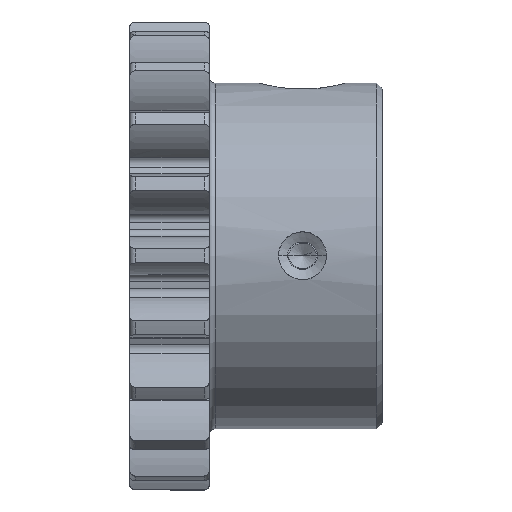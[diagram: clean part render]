
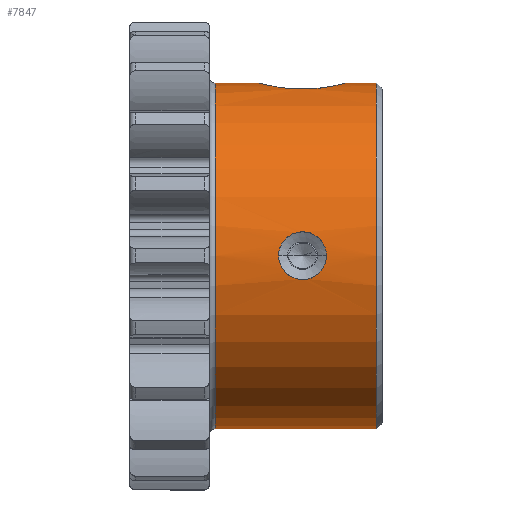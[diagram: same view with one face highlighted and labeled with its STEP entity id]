
A CAD part, top view. The second image highlights one B-rep face of the part: STEP entity #7847.
In plain terms, the highlighted cylindrical face has radius 6.5 mm (diameter 13 mm), a partial arc.
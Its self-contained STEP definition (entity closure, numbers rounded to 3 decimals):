
#3488=CARTESIAN_POINT('',(1.725,0.,0.));
#3489=DIRECTION('',(1.,0.,0.));
#3490=DIRECTION('',(0.,1.,0.));
#3491=AXIS2_PLACEMENT_3D('',#3488,#3489,#3490);
#3493=CARTESIAN_POINT('',(7.775,0.,0.));
#3494=DIRECTION('',(1.,0.,0.));
#3495=DIRECTION('',(0.,1.,0.));
#3496=AXIS2_PLACEMENT_3D('',#3493,#3494,#3495);
#3498=CARTESIAN_POINT('',(5.9,0.,6.5));
#3499=CARTESIAN_POINT('',(5.9,-0.063,6.5));
#3500=CARTESIAN_POINT('',(5.887,-0.188,
6.498));
#3501=CARTESIAN_POINT('',(5.829,-0.368,
6.49));
#3502=CARTESIAN_POINT('',(5.734,-0.533,
6.479));
#3503=CARTESIAN_POINT('',(5.608,-0.673,
6.465));
#3504=CARTESIAN_POINT('',(5.454,-0.785,
6.453));
#3505=CARTESIAN_POINT('',(5.281,-0.862,
6.443));
#3506=CARTESIAN_POINT('',(5.094,-0.902,
6.437));
#3507=CARTESIAN_POINT('',(4.906,-0.902,
6.437));
#3508=CARTESIAN_POINT('',(4.719,-0.862,
6.443));
#3509=CARTESIAN_POINT('',(4.547,-0.785,
6.453));
#3510=CARTESIAN_POINT('',(4.393,-0.673,
6.465));
#3511=CARTESIAN_POINT('',(4.267,-0.533,
6.479));
#3512=CARTESIAN_POINT('',(4.172,-0.368,
6.49));
#3513=CARTESIAN_POINT('',(4.113,-0.188,
6.498));
#3514=CARTESIAN_POINT('',(4.1,-0.064,6.5));
#3515=CARTESIAN_POINT('',(4.1,0.,6.5));
#3517=CARTESIAN_POINT('',(4.1,0.,6.5));
#3518=CARTESIAN_POINT('',(4.1,0.063,6.5));
#3519=CARTESIAN_POINT('',(4.113,0.188,6.498));
#3520=CARTESIAN_POINT('',(4.171,0.368,6.49));
#3521=CARTESIAN_POINT('',(4.266,0.533,6.479));
#3522=CARTESIAN_POINT('',(4.392,0.673,6.465));
#3523=CARTESIAN_POINT('',(4.546,0.785,6.453));
#3524=CARTESIAN_POINT('',(4.719,0.862,6.443));
#3525=CARTESIAN_POINT('',(4.906,0.902,6.437));
#3526=CARTESIAN_POINT('',(5.094,0.902,6.437));
#3527=CARTESIAN_POINT('',(5.281,0.862,6.443));
#3528=CARTESIAN_POINT('',(5.453,0.785,6.453));
#3529=CARTESIAN_POINT('',(5.607,0.673,6.465));
#3530=CARTESIAN_POINT('',(5.733,0.533,6.479));
#3531=CARTESIAN_POINT('',(5.828,0.368,6.49));
#3532=CARTESIAN_POINT('',(5.887,0.188,6.498));
#3533=CARTESIAN_POINT('',(5.9,0.064,6.5));
#3534=CARTESIAN_POINT('',(5.9,0.,6.5));
#3536=CARTESIAN_POINT('',(6.65,6.5,
0.));
#3537=CARTESIAN_POINT('',(6.65,6.5,0.112));
#3538=CARTESIAN_POINT('',(6.629,6.494,0.333));
#3539=CARTESIAN_POINT('',(6.532,6.469,0.656));
#3540=CARTESIAN_POINT('',(6.375,6.432,0.953));
#3541=CARTESIAN_POINT('',(6.164,6.387,1.213));
#3542=CARTESIAN_POINT('',(5.908,6.343,1.423));
#3543=CARTESIAN_POINT('',(5.62,6.306,1.577));
#3544=CARTESIAN_POINT('',(5.314,6.282,1.669));
#3545=CARTESIAN_POINT('',(5.,6.274,1.699));
#3546=CARTESIAN_POINT('',(4.686,6.282,1.669));
#3547=CARTESIAN_POINT('',(4.38,6.306,1.577));
#3548=CARTESIAN_POINT('',(4.092,6.343,1.423));
#3549=CARTESIAN_POINT('',(3.836,6.387,1.213));
#3550=CARTESIAN_POINT('',(3.625,6.432,0.953));
#3551=CARTESIAN_POINT('',(3.468,6.469,0.656));
#3552=CARTESIAN_POINT('',(3.371,6.494,0.333));
#3553=CARTESIAN_POINT('',(3.35,6.5,0.112));
#3554=CARTESIAN_POINT('',(3.35,6.5,
0.));
#3581=CARTESIAN_POINT('',(3.35,6.5,
0.));
#3599=CARTESIAN_POINT('',(6.65,6.5,
0.));
#3626=DIRECTION('',(-1.,0.,0.));
#3627=VECTOR('',#3626,1.625);
#3628=CARTESIAN_POINT('',(3.35,6.5,
0.));
#3629=LINE('',#3628,#3627);
#3630=DIRECTION('',(-1.,0.,0.));
#3631=VECTOR('',#3630,6.05);
#3632=CARTESIAN_POINT('',(7.775,-6.5,0.));
#3633=LINE('',#3632,#3631);
#3639=DIRECTION('',(-1.,0.,0.));
#3640=VECTOR('',#3639,1.125);
#3641=CARTESIAN_POINT('',(7.775,6.5,0.));
#3642=LINE('',#3641,#3640);
#4370=CARTESIAN_POINT('',(7.775,6.5,0.));
#4372=VERTEX_POINT('',#4370);
#4374=CARTESIAN_POINT('',(7.775,-6.5,0.));
#4376=VERTEX_POINT('',#4374);
#4381=CARTESIAN_POINT('',(1.725,-6.5,0.));
#4382=CARTESIAN_POINT('',(1.725,6.5,0.));
#4383=VERTEX_POINT('',#4381);
#4384=VERTEX_POINT('',#4382);
#4385=VERTEX_POINT('',#3581);
#4386=VERTEX_POINT('',#3599);
#4393=VERTEX_POINT('',#3498);
#4394=VERTEX_POINT('',#3515);
#7823=CARTESIAN_POINT('',(-0.4,0.,0.));
#7824=DIRECTION('',(1.,0.,0.));
#7825=DIRECTION('',(0.,-1.,0.));
#7826=AXIS2_PLACEMENT_3D('',#7823,#7824,#7825);
#7827=CYLINDRICAL_SURFACE('',#7826,6.5);
#7829=ORIENTED_EDGE('',*,*,#7828,.F.);
#7831=ORIENTED_EDGE('',*,*,#7830,.F.);
#7833=ORIENTED_EDGE('',*,*,#7832,.T.);
#7835=ORIENTED_EDGE('',*,*,#7834,.T.);
#7836=ORIENTED_EDGE('',*,*,#7817,.F.);
#7838=ORIENTED_EDGE('',*,*,#7837,.F.);
#7839=EDGE_LOOP('',(#7829,#7831,#7833,#7835,#7836,#7838));
#7840=FACE_OUTER_BOUND('',#7839,.F.);
#7842=ORIENTED_EDGE('',*,*,#7841,.F.);
#7844=ORIENTED_EDGE('',*,*,#7843,.F.);
#7845=EDGE_LOOP('',(#7842,#7844));
#7846=FACE_BOUND('',#7845,.F.);
#3492=CIRCLE('',#3491,6.5);
#3497=CIRCLE('',#3496,6.5);
#3516=B_SPLINE_CURVE_WITH_KNOTS('',3,(#3498,#3499,#3500,#3501,#3502,#3503,#3504,
#3505,#3506,#3507,#3508,#3509,#3510,#3511,#3512,#3513,#3514,#3515),
.UNSPECIFIED.,.F.,.F.,(4,1,1,1,1,1,1,1,1,1,1,1,1,1,1,4),(0.,0.067,
0.133,0.2,0.267,0.333,0.4,
0.467,0.533,0.6,0.667,0.733,
0.8,0.867,0.933,1.),.UNSPECIFIED.);
#3535=B_SPLINE_CURVE_WITH_KNOTS('',3,(#3517,#3518,#3519,#3520,#3521,#3522,#3523,
#3524,#3525,#3526,#3527,#3528,#3529,#3530,#3531,#3532,#3533,#3534),
.UNSPECIFIED.,.F.,.F.,(4,1,1,1,1,1,1,1,1,1,1,1,1,1,1,4),(0.,0.067,
0.133,0.2,0.267,0.333,0.4,
0.467,0.533,0.6,0.667,0.733,
0.8,0.867,0.933,1.),.UNSPECIFIED.);
#3555=B_SPLINE_CURVE_WITH_KNOTS('',3,(#3536,#3537,#3538,#3539,#3540,#3541,#3542,
#3543,#3544,#3545,#3546,#3547,#3548,#3549,#3550,#3551,#3552,#3553,#3554),
.UNSPECIFIED.,.F.,.F.,(4,1,1,1,1,1,1,1,1,1,1,1,1,1,1,1,4),(0.,0.063,0.125,
0.188,0.25,0.313,0.375,0.438,0.5,0.563,0.625,0.688,
0.75,0.813,0.875,0.938,1.),.UNSPECIFIED.);
#7817=EDGE_CURVE('',#4384,#4383,#3492,.T.);
#7828=EDGE_CURVE('',#4386,#4385,#3555,.T.);
#7830=EDGE_CURVE('',#4372,#4386,#3642,.T.);
#7832=EDGE_CURVE('',#4372,#4376,#3497,.T.);
#7834=EDGE_CURVE('',#4376,#4383,#3633,.T.);
#7837=EDGE_CURVE('',#4385,#4384,#3629,.T.);
#7841=EDGE_CURVE('',#4393,#4394,#3516,.T.);
#7843=EDGE_CURVE('',#4394,#4393,#3535,.T.);
#7847=ADVANCED_FACE('',(#7840,#7846),#7827,.T.);
